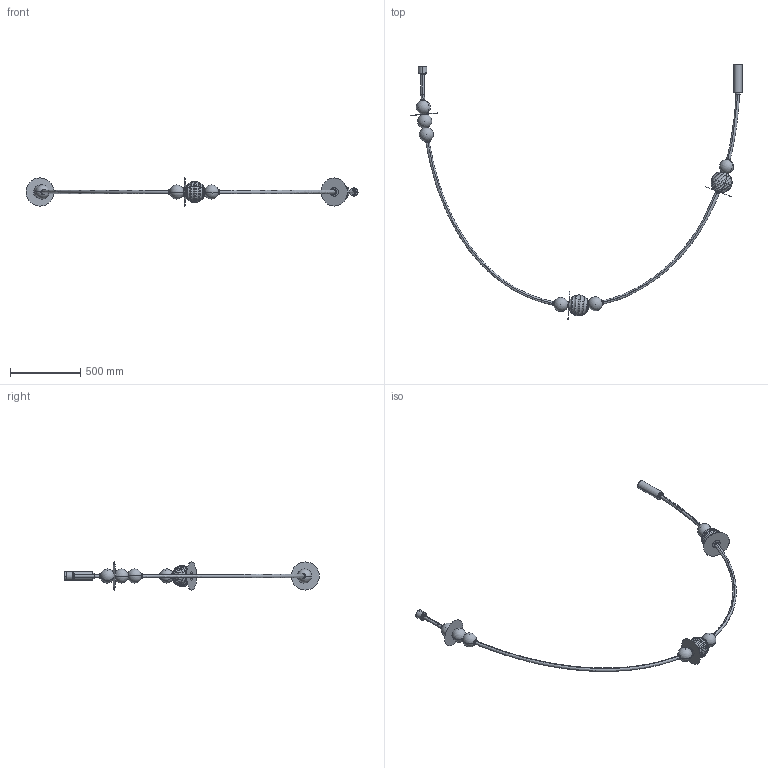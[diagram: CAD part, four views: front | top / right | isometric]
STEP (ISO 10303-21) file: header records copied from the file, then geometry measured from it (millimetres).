
FILE_DESCRIPTION (( 'STEP AP214' ), '1' );
FILE_NAME ('YMA_C1347_H_4M.STEP', '2026-08-13T13:42:55', ( '' ), ( '' ), 'SwSTEP 2.0', 'SolidWorks 2023', '' );
FILE_SCHEMA (( 'AUTOMOTIVE_DESIGN' ));
Length unit declared in the file: millimetre
Products named in the file (6): 1347_14T (curly ball); 1347_ball_10; 1347_disc20; YMA_C1347_H_4M; YMA_C1347_TUBE_4M; 1347_tapa
Assembly tree (19 placements, depth 2):
  YMA_C1347_H_4M
    YMA_C1347_TUBE_4M
    1347_ball_10  x6
    1347_disc20  x3
    1347_tapa  x7
    1347_14T (curly ball)  x2
Bounding box: 2359.75 x 1809.02 x 200 mm (x, y, z)
Volume: 1210800.3 mm3; surface area: 1602852.4 mm2
Topology: 21 solids, 21 shells, 364 faces, 830 edges, 512 vertices
Faces by surface type: torus 128, cylinder 122, plane 70, sphere 24, cone 16, bspline 4
Entity records: 12043 total; most frequent: CARTESIAN_POINT 8378, DIRECTION 878, ORIENTED_EDGE 612, AXIS2_PLACEMENT_3D 414, EDGE_CURVE 306, CIRCLE 244, VERTEX_POINT 184, EDGE_LOOP 176
